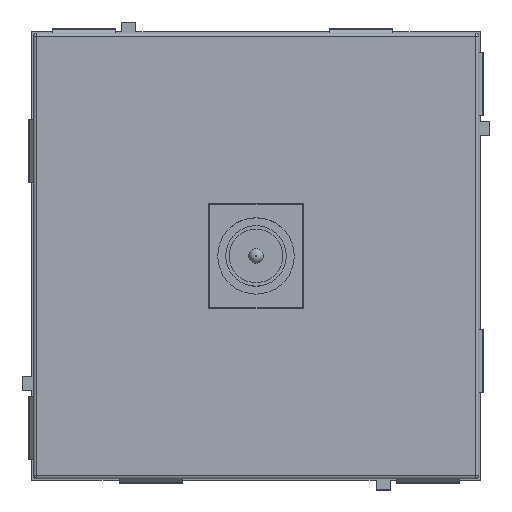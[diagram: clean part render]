
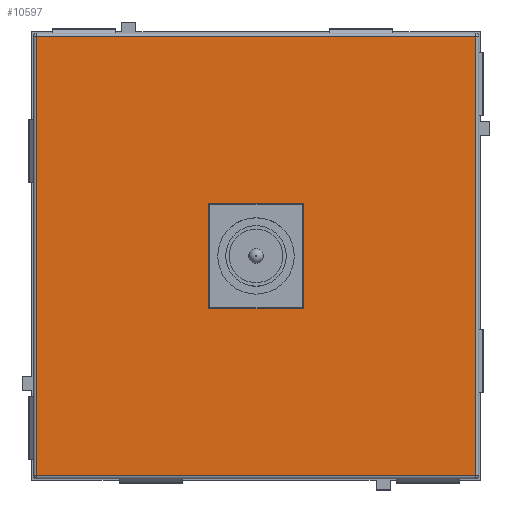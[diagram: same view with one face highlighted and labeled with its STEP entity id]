
A CAD part, top view. The second image highlights one B-rep face of the part: STEP entity #10597.
In plain terms, the highlighted planar face has unit normal (0, 0, 1).
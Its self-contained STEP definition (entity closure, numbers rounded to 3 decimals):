
#906 = PLANE ( 'NONE',  #21590 ) ;
#1558 = VECTOR ( 'NONE', #24694, 1000. ) ;
#1590 = EDGE_CURVE ( 'NONE', #21032, #31207, #12907, .T. ) ;
#2243 = VECTOR ( 'NONE', #13750, 1000. ) ;
#2357 = LINE ( 'NONE', #27330, #27184 ) ;
#3107 = FACE_BOUND ( 'NONE', #5384, .T. ) ;
#3926 = LINE ( 'NONE', #28849, #19661 ) ;
#4193 = VECTOR ( 'NONE', #15804, 1000. ) ;
#4955 = LINE ( 'NONE', #19794, #25873 ) ;
#5026 = EDGE_CURVE ( 'NONE', #25317, #9210, #2357, .T. ) ;
#5199 = VECTOR ( 'NONE', #24484, 1000. ) ;
#5278 = VERTEX_POINT ( 'NONE', #8929 ) ;
#5384 = EDGE_LOOP ( 'NONE', ( #18751, #15252, #25265, #18638 ) ) ;
#6074 = EDGE_CURVE ( 'NONE', #5278, #31586, #6649, .T. ) ;
#6319 = CARTESIAN_POINT ( 'NONE',  ( -7.4, 8.25, 7.3 ) ) ;
#6649 = LINE ( 'NONE', #6319, #5199 ) ;
#7276 = CARTESIAN_POINT ( 'NONE',  ( -34.5, 34.5, 7.3 ) ) ;
#8051 = LINE ( 'NONE', #30943, #4193 ) ;
#8325 = CARTESIAN_POINT ( 'NONE',  ( 0., 0., 7.3 ) ) ;
#8929 = CARTESIAN_POINT ( 'NONE',  ( -7.4, -8.25, 7.3 ) ) ;
#9175 = DIRECTION ( 'NONE',  ( 0., -1., 0. ) ) ;
#9210 = VERTEX_POINT ( 'NONE', #9596 ) ;
#9563 = EDGE_CURVE ( 'NONE', #9210, #5278, #13916, .T. ) ;
#9596 = CARTESIAN_POINT ( 'NONE',  ( 7.4, -8.25, 7.3 ) ) ;
#9847 = DIRECTION ( 'NONE',  ( -1., 0., 0. ) ) ;
#10541 = DIRECTION ( 'NONE',  ( 0., 1., 0. ) ) ;
#10597 = ADVANCED_FACE ( 'NONE', ( #3107, #23625 ), #906, .F. ) ;
#12245 = VERTEX_POINT ( 'NONE', #7276 ) ;
#12381 = EDGE_CURVE ( 'NONE', #12245, #23758, #19671, .T. ) ;
#12907 = LINE ( 'NONE', #15769, #32989 ) ;
#13584 = ORIENTED_EDGE ( 'NONE', *, *, #21812, .T. ) ;
#13718 = DIRECTION ( 'NONE',  ( 0., 1., 0. ) ) ;
#13750 = DIRECTION ( 'NONE',  ( -1., 0., 0. ) ) ;
#13916 = LINE ( 'NONE', #28717, #2243 ) ;
#14510 = CARTESIAN_POINT ( 'NONE',  ( -7.4, 8.25, 7.3 ) ) ;
#15252 = ORIENTED_EDGE ( 'NONE', *, *, #5026, .T. ) ;
#15537 = ORIENTED_EDGE ( 'NONE', *, *, #32575, .T. ) ;
#15769 = CARTESIAN_POINT ( 'NONE',  ( 34.5, 0., 7.3 ) ) ;
#15804 = DIRECTION ( 'NONE',  ( 1., 0., 0. ) ) ;
#17290 = CARTESIAN_POINT ( 'NONE',  ( 7.4, 8.25, 7.3 ) ) ;
#18638 = ORIENTED_EDGE ( 'NONE', *, *, #6074, .T. ) ;
#18751 = ORIENTED_EDGE ( 'NONE', *, *, #29004, .T. ) ;
#19323 = ORIENTED_EDGE ( 'NONE', *, *, #12381, .T. ) ;
#19661 = VECTOR ( 'NONE', #21780, 1000. ) ;
#19671 = LINE ( 'NONE', #22345, #1558 ) ;
#19794 = CARTESIAN_POINT ( 'NONE',  ( 0., 34.5, 7.3 ) ) ;
#19837 = CARTESIAN_POINT ( 'NONE',  ( -34.5, -34.5, 7.3 ) ) ;
#20633 = CARTESIAN_POINT ( 'NONE',  ( 34.5, 34.5, 7.3 ) ) ;
#21032 = VERTEX_POINT ( 'NONE', #21567 ) ;
#21456 = DIRECTION ( 'NONE',  ( 0., 0., -1. ) ) ;
#21567 = CARTESIAN_POINT ( 'NONE',  ( 34.5, -34.5, 7.3 ) ) ;
#21590 = AXIS2_PLACEMENT_3D ( 'NONE', #8325, #21456, #13718 ) ;
#21780 = DIRECTION ( 'NONE',  ( 1., 0., 0. ) ) ;
#21812 = EDGE_CURVE ( 'NONE', #23758, #21032, #3926, .T. ) ;
#22345 = CARTESIAN_POINT ( 'NONE',  ( -34.5, 0., 7.3 ) ) ;
#23625 = FACE_OUTER_BOUND ( 'NONE', #27055, .T. ) ;
#23758 = VERTEX_POINT ( 'NONE', #19837 ) ;
#24484 = DIRECTION ( 'NONE',  ( 0., 1., 0. ) ) ;
#24694 = DIRECTION ( 'NONE',  ( 0., -1., 0. ) ) ;
#25265 = ORIENTED_EDGE ( 'NONE', *, *, #9563, .T. ) ;
#25317 = VERTEX_POINT ( 'NONE', #17290 ) ;
#25873 = VECTOR ( 'NONE', #9847, 1000. ) ;
#27055 = EDGE_LOOP ( 'NONE', ( #30288, #15537, #19323, #13584 ) ) ;
#27184 = VECTOR ( 'NONE', #9175, 1000. ) ;
#27330 = CARTESIAN_POINT ( 'NONE',  ( 7.4, 8.25, 7.3 ) ) ;
#28717 = CARTESIAN_POINT ( 'NONE',  ( -7.4, -8.25, 7.3 ) ) ;
#28849 = CARTESIAN_POINT ( 'NONE',  ( 0., -34.5, 7.3 ) ) ;
#29004 = EDGE_CURVE ( 'NONE', #31586, #25317, #8051, .T. ) ;
#30288 = ORIENTED_EDGE ( 'NONE', *, *, #1590, .T. ) ;
#30943 = CARTESIAN_POINT ( 'NONE',  ( -7.4, 8.25, 7.3 ) ) ;
#31207 = VERTEX_POINT ( 'NONE', #20633 ) ;
#31586 = VERTEX_POINT ( 'NONE', #14510 ) ;
#32575 = EDGE_CURVE ( 'NONE', #31207, #12245, #4955, .T. ) ;
#32989 = VECTOR ( 'NONE', #10541, 1000. ) ;
